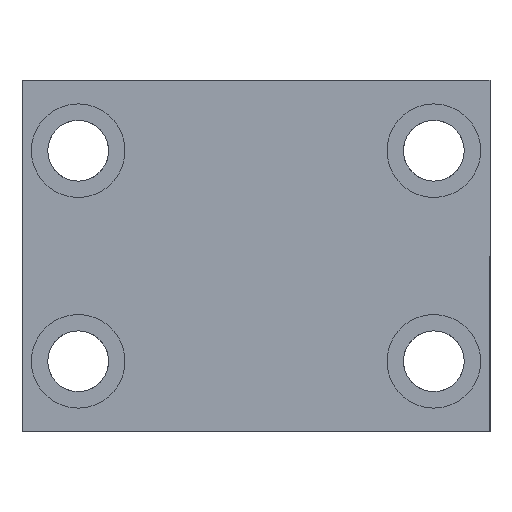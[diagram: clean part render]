
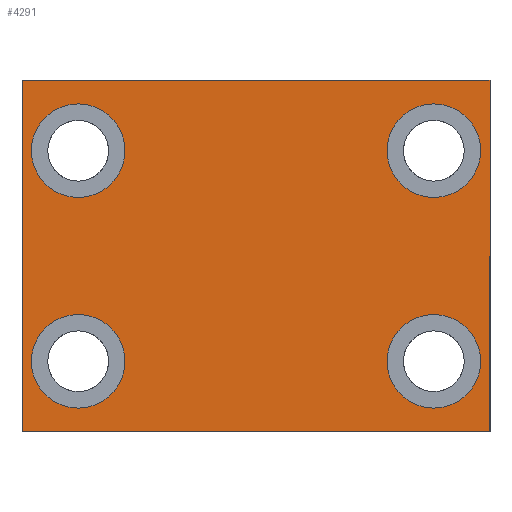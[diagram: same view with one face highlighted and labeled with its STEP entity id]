
A CAD part, front view. The second image highlights one B-rep face of the part: STEP entity #4291.
In plain terms, the highlighted planar face has unit normal (0, -1, 0).
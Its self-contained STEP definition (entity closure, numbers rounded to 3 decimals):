
#63 = DIRECTION ( 'NONE',  ( 0., -1., 0. ) ) ;
#85 = CARTESIAN_POINT ( 'NONE',  ( -50., 0., -37.5 ) ) ;
#120 = CARTESIAN_POINT ( 'NONE',  ( -50., 0., -37.5 ) ) ;
#124 = ORIENTED_EDGE ( 'NONE', *, *, #2528, .F. ) ;
#177 = CIRCLE ( 'NONE', #1929, 10. ) ;
#178 = CARTESIAN_POINT ( 'NONE',  ( -50., 0., 37.5 ) ) ;
#250 = CARTESIAN_POINT ( 'NONE',  ( -38., 0., -12.5 ) ) ;
#303 = ORIENTED_EDGE ( 'NONE', *, *, #3226, .F. ) ;
#317 = EDGE_LOOP ( 'NONE', ( #3472, #2110 ) ) ;
#402 = CARTESIAN_POINT ( 'NONE',  ( 38., 0., -32.5 ) ) ;
#440 = CIRCLE ( 'NONE', #3167, 10. ) ;
#642 = CARTESIAN_POINT ( 'NONE',  ( -50., 0., -37.5 ) ) ;
#763 = DIRECTION ( 'NONE',  ( 0., 0., -1. ) ) ;
#777 = CARTESIAN_POINT ( 'NONE',  ( 38., 0., -22.5 ) ) ;
#783 = DIRECTION ( 'NONE',  ( 0., -1., 0. ) ) ;
#796 = CARTESIAN_POINT ( 'NONE',  ( -38., 0., 22.5 ) ) ;
#830 = FACE_BOUND ( 'NONE', #1382, .T. ) ;
#873 = DIRECTION ( 'NONE',  ( 0., -1., 0. ) ) ;
#904 = AXIS2_PLACEMENT_3D ( 'NONE', #3934, #1001, #982 ) ;
#982 = DIRECTION ( 'NONE',  ( 0., 0., -1. ) ) ;
#1001 = DIRECTION ( 'NONE',  ( 0., -1., 0. ) ) ;
#1014 = DIRECTION ( 'NONE',  ( 0., 0., -1. ) ) ;
#1023 = DIRECTION ( 'NONE',  ( 0., -1., 0. ) ) ;
#1039 = CARTESIAN_POINT ( 'NONE',  ( -38., 0., -22.5 ) ) ;
#1151 = EDGE_CURVE ( 'NONE', #3082, #3809, #4140, .T. ) ;
#1186 = DIRECTION ( 'NONE',  ( 0., 0., -1. ) ) ;
#1220 = PLANE ( 'NONE',  #3486 ) ;
#1272 = AXIS2_PLACEMENT_3D ( 'NONE', #3225, #873, #2920 ) ;
#1323 = EDGE_CURVE ( 'NONE', #2857, #3862, #2718, .T. ) ;
#1360 = ORIENTED_EDGE ( 'NONE', *, *, #3845, .F. ) ;
#1373 = CARTESIAN_POINT ( 'NONE',  ( 38., 0., -12.5 ) ) ;
#1382 = EDGE_LOOP ( 'NONE', ( #1789, #124 ) ) ;
#1391 = LINE ( 'NONE', #3792, #3992 ) ;
#1436 = EDGE_CURVE ( 'NONE', #3210, #4067, #1391, .T. ) ;
#1462 = AXIS2_PLACEMENT_3D ( 'NONE', #1039, #1023, #1014 ) ;
#1531 = VERTEX_POINT ( 'NONE', #1373 ) ;
#1629 = ORIENTED_EDGE ( 'NONE', *, *, #4231, .F. ) ;
#1638 = DIRECTION ( 'NONE',  ( 0., 0., 1. ) ) ;
#1687 = VERTEX_POINT ( 'NONE', #3756 ) ;
#1692 = LINE ( 'NONE', #120, #3132 ) ;
#1789 = ORIENTED_EDGE ( 'NONE', *, *, #1151, .F. ) ;
#1908 = AXIS2_PLACEMENT_3D ( 'NONE', #796, #783, #763 ) ;
#1929 = AXIS2_PLACEMENT_3D ( 'NONE', #777, #63, #1186 ) ;
#2003 = VERTEX_POINT ( 'NONE', #402 ) ;
#2110 = ORIENTED_EDGE ( 'NONE', *, *, #2277, .F. ) ;
#2168 = LINE ( 'NONE', #85, #3039 ) ;
#2173 = CARTESIAN_POINT ( 'NONE',  ( 50., 0., 37.5 ) ) ;
#2184 = EDGE_LOOP ( 'NONE', ( #1629, #2232 ) ) ;
#2203 = VERTEX_POINT ( 'NONE', #178 ) ;
#2218 = AXIS2_PLACEMENT_3D ( 'NONE', #2477, #2470, #2463 ) ;
#2222 = DIRECTION ( 'NONE',  ( 1., 0., 0. ) ) ;
#2232 = ORIENTED_EDGE ( 'NONE', *, *, #1323, .F. ) ;
#2239 = ORIENTED_EDGE ( 'NONE', *, *, #3320, .F. ) ;
#2273 = DIRECTION ( 'NONE',  ( 0., 0., -1. ) ) ;
#2277 = EDGE_CURVE ( 'NONE', #3962, #1687, #440, .T. ) ;
#2288 = DIRECTION ( 'NONE',  ( 0., -1., 0. ) ) ;
#2306 = CARTESIAN_POINT ( 'NONE',  ( 0., 0., 0. ) ) ;
#2323 = CARTESIAN_POINT ( 'NONE',  ( -38., 0., 22.5 ) ) ;
#2384 = EDGE_CURVE ( 'NONE', #1687, #3962, #4314, .T. ) ;
#2463 = DIRECTION ( 'NONE',  ( 0., 0., -1. ) ) ;
#2470 = DIRECTION ( 'NONE',  ( 0., -1., 0. ) ) ;
#2477 = CARTESIAN_POINT ( 'NONE',  ( 38., 0., 22.5 ) ) ;
#2528 = EDGE_CURVE ( 'NONE', #3809, #3082, #2990, .T. ) ;
#2653 = FACE_BOUND ( 'NONE', #2841, .T. ) ;
#2697 = CARTESIAN_POINT ( 'NONE',  ( 38., 0., 32.5 ) ) ;
#2718 = CIRCLE ( 'NONE', #1462, 10. ) ;
#2755 = EDGE_CURVE ( 'NONE', #3763, #2203, #2168, .T. ) ;
#2819 = DIRECTION ( 'NONE',  ( -1., 0., 0. ) ) ;
#2841 = EDGE_LOOP ( 'NONE', ( #2239, #3308 ) ) ;
#2857 = VERTEX_POINT ( 'NONE', #250 ) ;
#2862 = CIRCLE ( 'NONE', #1272, 10. ) ;
#2902 = ORIENTED_EDGE ( 'NONE', *, *, #2755, .F. ) ;
#2920 = DIRECTION ( 'NONE',  ( 0., 0., -1. ) ) ;
#2990 = CIRCLE ( 'NONE', #1908, 10. ) ;
#3011 = CIRCLE ( 'NONE', #904, 10. ) ;
#3039 = VECTOR ( 'NONE', #3811, 1000. ) ;
#3082 = VERTEX_POINT ( 'NONE', #4097 ) ;
#3110 = AXIS2_PLACEMENT_3D ( 'NONE', #2323, #2288, #2273 ) ;
#3132 = VECTOR ( 'NONE', #2819, 1000. ) ;
#3150 = EDGE_LOOP ( 'NONE', ( #3796, #1360, #2902, #303 ) ) ;
#3167 = AXIS2_PLACEMENT_3D ( 'NONE', #3592, #3576, #3564 ) ;
#3195 = CARTESIAN_POINT ( 'NONE',  ( -38., 0., -32.5 ) ) ;
#3210 = VERTEX_POINT ( 'NONE', #2173 ) ;
#3225 = CARTESIAN_POINT ( 'NONE',  ( -38., 0., -22.5 ) ) ;
#3226 = EDGE_CURVE ( 'NONE', #4067, #3763, #1692, .T. ) ;
#3235 = CARTESIAN_POINT ( 'NONE',  ( -50., 0., 37.5 ) ) ;
#3298 = VECTOR ( 'NONE', #2222, 1000. ) ;
#3308 = ORIENTED_EDGE ( 'NONE', *, *, #3459, .F. ) ;
#3320 = EDGE_CURVE ( 'NONE', #2003, #1531, #177, .T. ) ;
#3394 = FACE_OUTER_BOUND ( 'NONE', #3150, .T. ) ;
#3396 = LINE ( 'NONE', #3235, #3298 ) ;
#3459 = EDGE_CURVE ( 'NONE', #1531, #2003, #3011, .T. ) ;
#3472 = ORIENTED_EDGE ( 'NONE', *, *, #2384, .F. ) ;
#3486 = AXIS2_PLACEMENT_3D ( 'NONE', #2306, #3897, #1638 ) ;
#3547 = CARTESIAN_POINT ( 'NONE',  ( -38., 0., 32.5 ) ) ;
#3564 = DIRECTION ( 'NONE',  ( 0., 0., -1. ) ) ;
#3576 = DIRECTION ( 'NONE',  ( 0., -1., 0. ) ) ;
#3592 = CARTESIAN_POINT ( 'NONE',  ( 38., 0., 22.5 ) ) ;
#3687 = FACE_BOUND ( 'NONE', #317, .T. ) ;
#3756 = CARTESIAN_POINT ( 'NONE',  ( 38., 0., 12.5 ) ) ;
#3763 = VERTEX_POINT ( 'NONE', #642 ) ;
#3792 = CARTESIAN_POINT ( 'NONE',  ( 50., 0., -37.5 ) ) ;
#3796 = ORIENTED_EDGE ( 'NONE', *, *, #1436, .F. ) ;
#3809 = VERTEX_POINT ( 'NONE', #3547 ) ;
#3811 = DIRECTION ( 'NONE',  ( 0., 0., 1. ) ) ;
#3845 = EDGE_CURVE ( 'NONE', #2203, #3210, #3396, .T. ) ;
#3862 = VERTEX_POINT ( 'NONE', #3195 ) ;
#3897 = DIRECTION ( 'NONE',  ( 0., 1., 0. ) ) ;
#3934 = CARTESIAN_POINT ( 'NONE',  ( 38., 0., -22.5 ) ) ;
#3962 = VERTEX_POINT ( 'NONE', #2697 ) ;
#3992 = VECTOR ( 'NONE', #4011, 1000. ) ;
#4011 = DIRECTION ( 'NONE',  ( 0., 0., -1. ) ) ;
#4067 = VERTEX_POINT ( 'NONE', #4101 ) ;
#4097 = CARTESIAN_POINT ( 'NONE',  ( -38., 0., 12.5 ) ) ;
#4101 = CARTESIAN_POINT ( 'NONE',  ( 50., 0., -37.5 ) ) ;
#4140 = CIRCLE ( 'NONE', #3110, 10. ) ;
#4215 = FACE_BOUND ( 'NONE', #2184, .T. ) ;
#4231 = EDGE_CURVE ( 'NONE', #3862, #2857, #2862, .T. ) ;
#4291 = ADVANCED_FACE ( 'NONE', ( #4215, #2653, #3687, #830, #3394 ), #1220, .F. ) ;
#4314 = CIRCLE ( 'NONE', #2218, 10. ) ;
